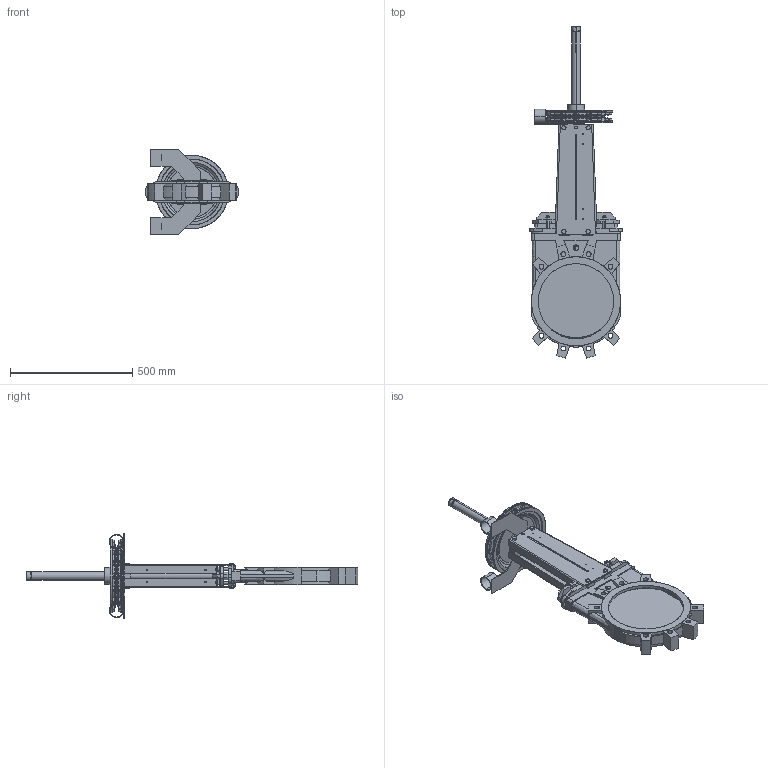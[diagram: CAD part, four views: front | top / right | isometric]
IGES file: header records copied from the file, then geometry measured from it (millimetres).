
Start section: SolidWorks IGES file using analytic representation for surfaces
Global section: file name: D:\part\3D Projects\VG-CHAIN HANDWHEEL(DN50-600)\VG C DN300\VG C DN300.IGS; native system: SolidWorks 2009; preprocessor: SolidWorks 2009; author: zhixin.zheng; date: 100128.130148; units: millimetre
Bounding box: 380 x 1359.55 x 350 mm (x, y, z)
Surface area: 1578707.1 mm2 (no closed solid volume)
Topology: 0 solids, 0 shells, 1080 faces, 12489 edges, 12489 vertices
Faces by surface type: bspline 682, revolution 398
